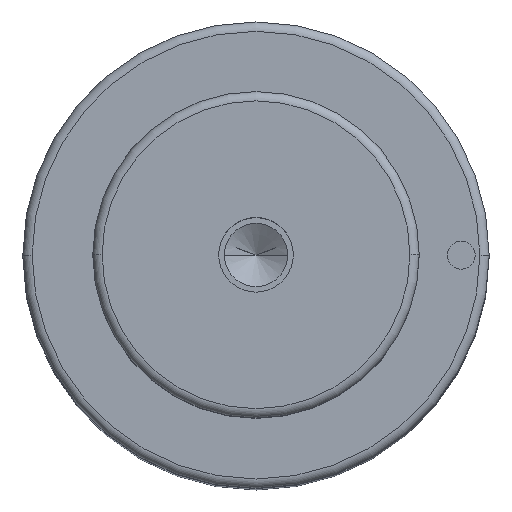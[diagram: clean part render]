
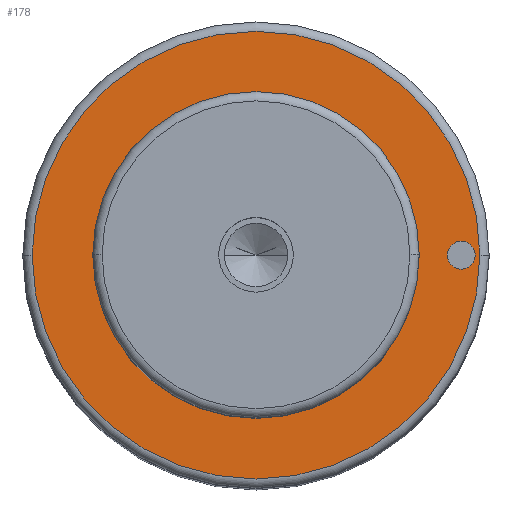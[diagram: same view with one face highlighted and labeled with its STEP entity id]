
A CAD part, top view. The second image highlights one B-rep face of the part: STEP entity #178.
In plain terms, the highlighted planar face has unit normal (0, 0, 1).
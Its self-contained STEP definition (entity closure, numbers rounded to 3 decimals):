
#105=PLANE('',#866);
#115=FACE_BOUND('',#283,.T.);
#116=FACE_BOUND('',#284,.T.);
#117=FACE_BOUND('',#285,.T.);
#178=ADVANCED_FACE('',(#115,#116,#117),#105,.T.);
#283=EDGE_LOOP('',(#473,#474));
#284=EDGE_LOOP('',(#475,#476));
#285=EDGE_LOOP('',(#477,#478));
#333=CIRCLE('',#834,17.5);
#334=CIRCLE('',#836,17.5);
#338=CIRCLE('',#841,24.);
#339=CIRCLE('',#843,24.);
#351=CIRCLE('',#864,1.5);
#352=CIRCLE('',#865,1.5);
#473=ORIENTED_EDGE('',*,*,#666,.F.);
#474=ORIENTED_EDGE('',*,*,#667,.F.);
#475=ORIENTED_EDGE('',*,*,#685,.F.);
#476=ORIENTED_EDGE('',*,*,#686,.F.);
#477=ORIENTED_EDGE('',*,*,#662,.T.);
#478=ORIENTED_EDGE('',*,*,#660,.T.);
#590=VERTEX_POINT('',#1233);
#591=VERTEX_POINT('',#1235);
#592=VERTEX_POINT('',#1241);
#595=VERTEX_POINT('',#1246);
#604=VERTEX_POINT('',#1285);
#605=VERTEX_POINT('',#1286);
#660=EDGE_CURVE('',#591,#590,#333,.T.);
#662=EDGE_CURVE('',#590,#591,#334,.T.);
#666=EDGE_CURVE('',#595,#592,#338,.T.);
#667=EDGE_CURVE('',#592,#595,#339,.T.);
#685=EDGE_CURVE('',#604,#605,#351,.T.);
#686=EDGE_CURVE('',#605,#604,#352,.T.);
#834=AXIS2_PLACEMENT_3D('',#1234,#985,#986);
#836=AXIS2_PLACEMENT_3D('',#1238,#990,#991);
#841=AXIS2_PLACEMENT_3D('',#1247,#1000,#1001);
#843=AXIS2_PLACEMENT_3D('',#1249,#1004,#1005);
#864=AXIS2_PLACEMENT_3D('',#1284,#1052,#1053);
#865=AXIS2_PLACEMENT_3D('',#1287,#1054,#1055);
#866=AXIS2_PLACEMENT_3D('',#1288,#1056,#1057);
#985=DIRECTION('',(0.,0.,-1.));
#986=DIRECTION('',(0.,1.,0.));
#990=DIRECTION('',(0.,0.,-1.));
#991=DIRECTION('',(0.,-1.,0.));
#1000=DIRECTION('',(0.,0.,-1.));
#1001=DIRECTION('',(0.,1.,0.));
#1004=DIRECTION('',(0.,0.,-1.));
#1005=DIRECTION('',(0.,-1.,0.));
#1052=DIRECTION('',(0.,0.,1.));
#1053=DIRECTION('',(0.,1.,0.));
#1054=DIRECTION('',(0.,0.,1.));
#1055=DIRECTION('',(0.,-1.,0.));
#1056=DIRECTION('',(0.,0.,1.));
#1057=DIRECTION('',(0.,-1.,0.));
#1233=CARTESIAN_POINT('',(-17.5,0.,103.));
#1234=CARTESIAN_POINT('',(0.,0.,103.));
#1235=CARTESIAN_POINT('',(17.5,0.,103.));
#1238=CARTESIAN_POINT('',(0.,0.,103.));
#1241=CARTESIAN_POINT('',(-24.,0.,103.));
#1246=CARTESIAN_POINT('',(24.,0.,103.));
#1247=CARTESIAN_POINT('',(0.,0.,103.));
#1249=CARTESIAN_POINT('',(0.,0.,103.));
#1284=CARTESIAN_POINT('',(22.,0.,103.));
#1285=CARTESIAN_POINT('',(20.5,0.,103.));
#1286=CARTESIAN_POINT('',(23.5,0.,103.));
#1287=CARTESIAN_POINT('',(22.,0.,103.));
#1288=CARTESIAN_POINT('',(0.,0.,103.));
